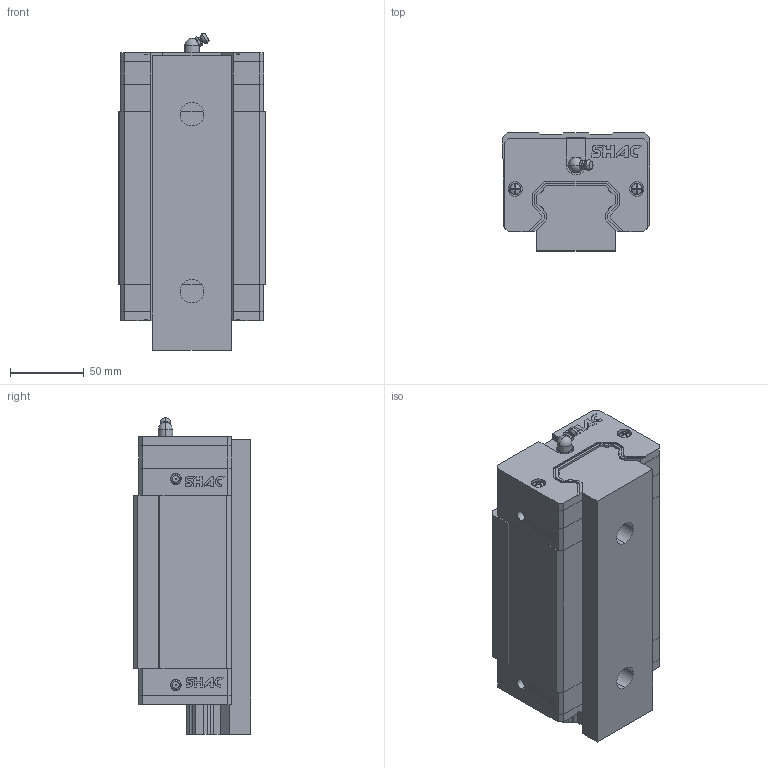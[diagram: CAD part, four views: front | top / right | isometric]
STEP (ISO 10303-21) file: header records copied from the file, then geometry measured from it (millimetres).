
FILE_DESCRIPTION (( 'STEP AP214' ), '1' );
FILE_NAME ('STP_GHH55CA_(E2)自润式_(R)上锁式_刮油片＋防尘条_200_200_1_GHH55CA_GHH55CA.step', '2020-06-27T09:34:26', ( 'IT Division' ), ( 'IT' ), 'SwSTEP 2.0', 'SolidWorks 2016', '' );
FILE_SCHEMA (( 'AUTOMOTIVE_DESIGN' ));
Length unit declared in the file: millimetre
Products named in the file (3): STP_GHH55CA_(E2)自润式_(R)上锁式_刮油片＋防尘条_200_200_1_GHH55CA_GHH55CA; STP_GHH55CA_(E2)自润式_(R)上锁式_刮油片＋防尘条_200_200_1_GHH55CA_GHH55CA_2; STP_GHH55CA_(E2)自润式_(R)上锁式_刮油片＋防尘条_200_200_1_GHH55CA_GHH55CA_1
Assembly tree (2 placements, depth 2):
  STP_GHH55CA_(E2)自润式_(R)上锁式_刮油片＋防尘条_200_200_1_GHH55CA_GHH55CA
    STP_GHH55CA_(E2)自润式_(R)上锁式_刮油片＋防尘条_200_200_1_GHH55CA_GHH55CA_1
    STP_GHH55CA_(E2)自润式_(R)上锁式_刮油片＋防尘条_200_200_1_GHH55CA_GHH55CA_2
Bounding box: 100 x 80 x 214.43 mm (x, y, z)
Volume: 1292092.8 mm3; surface area: 181890.7 mm2
Topology: 8 solids, 8 shells, 850 faces, 2277 edges, 1494 vertices
Faces by surface type: plane 626, cylinder 158, cone 31, torus 25, sphere 10
Entity records: 29299 total; most frequent: CARTESIAN_POINT 4788, ORIENTED_EDGE 4530, DIRECTION 4404, EDGE_CURVE 2265, VECTOR 1764, LINE 1764, VERTEX_POINT 1492, AXIS2_PLACEMENT_3D 1320
